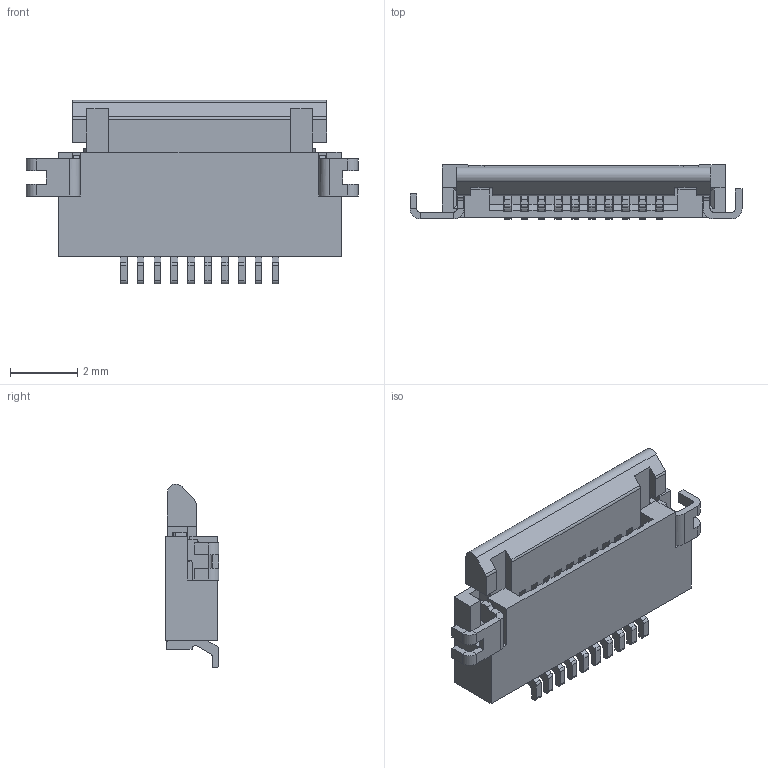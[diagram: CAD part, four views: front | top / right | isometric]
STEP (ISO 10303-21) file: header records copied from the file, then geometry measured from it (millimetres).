
FILE_DESCRIPTION((''),'2;1');
FILE_NAME('88195-10XX','2009-09-01T',('snow'),(''),'PRO/ENGINEER BY PARAMETRIC TECHNOLOGY CORPORATION, 2007450','PRO/ENGINEER BY PARAMETRIC TECHNOLOGY CORPORATION, 2007450','');
FILE_SCHEMA(('CONFIG_CONTROL_DESIGN'));
Length unit declared in the file: millimetre
Products named in the file (1): 88195-10XX
Bounding box: 9.85 x 1.6 x 5.45 mm (x, y, z)
Volume: 35.3 mm3; surface area: 277.7 mm2
Topology: 1 solids, 1 shells, 813 faces, 2535 edges, 1652 vertices
Faces by surface type: plane 556, cylinder 257
Entity records: 28224 total; most frequent: ORIENTED_EDGE 5070, CARTESIAN_POINT 5004, DIRECTION 4684, EDGE_CURVE 2535, VECTOR 2008, LINE 2008, VERTEX_POINT 1652, AXIS2_PLACEMENT_3D 1338
